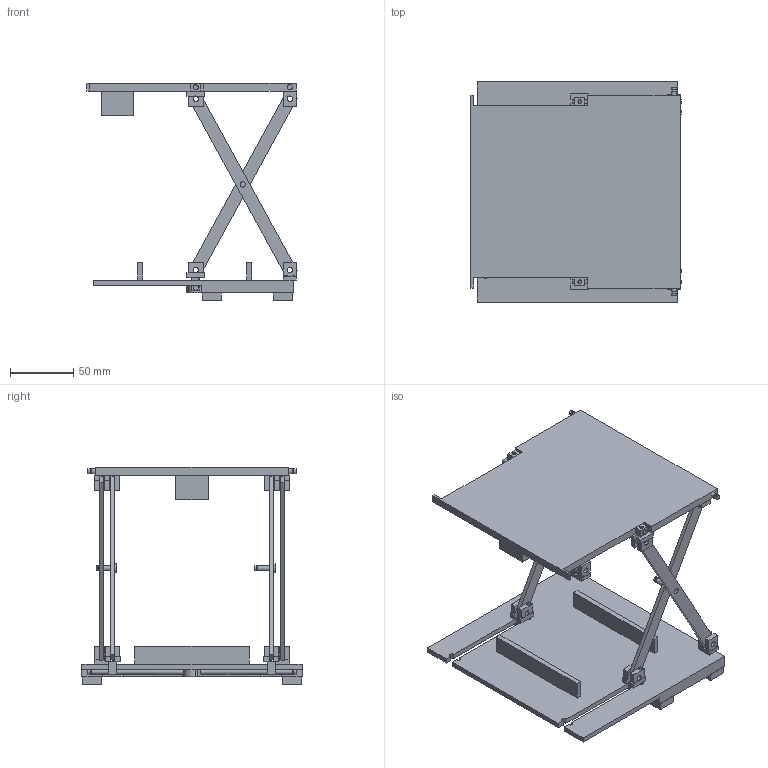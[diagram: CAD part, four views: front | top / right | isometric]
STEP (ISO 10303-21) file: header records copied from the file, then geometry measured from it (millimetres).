
FILE_DESCRIPTION(('Open CASCADE Model'),'2;1');
FILE_NAME('SCZ_asm_open','2026-11-15T22:39:12',('Author'),( 'Open CASCADE'),'Open CASCADE STEP processor 8.0','build123d', 'Unknown');
FILE_SCHEMA(('AUTOMOTIVE_DESIGN { 1 0 10303 214 1 1 1 1 }'));
Length unit declared in the file: millimetre
Products named in the file (11): SCZ_asm_open; BASE; ARM_B_R; SLB_R; SLT_R; POST_R; SHB; SHT; PLAT; CPIN_L; CPIN_R
Assembly tree (16 placements, depth 2):
  SCZ_asm_open
    BASE
    ARM_B_R  x4
    SLB_R  x2
    SLT_R  x2
    POST_R  x2
    SHB
    SHT
    PLAT
    CPIN_L
    CPIN_R
Bounding box: 165.83 x 173.5 x 171 mm (x, y, z)
Volume: 380733.6 mm3; surface area: 152353.7 mm2
Topology: 16 solids, 16 shells, 421 faces, 1097 edges, 726 vertices
Faces by surface type: plane 323, cylinder 98
Full cylindrical faces by diameter (mm): 2.9 x8, 3.4 x24, 4 x15, 4.3 x28, 7 x2
Entity records: 21106 total; most frequent: CARTESIAN_POINT 5777, DIRECTION 2662, LINE 1630, VECTOR 1630, ORIENTED_EDGE 1544, PCURVE 1544, DEFINITIONAL_REPRESENTATION 1544, EDGE_CURVE 772
